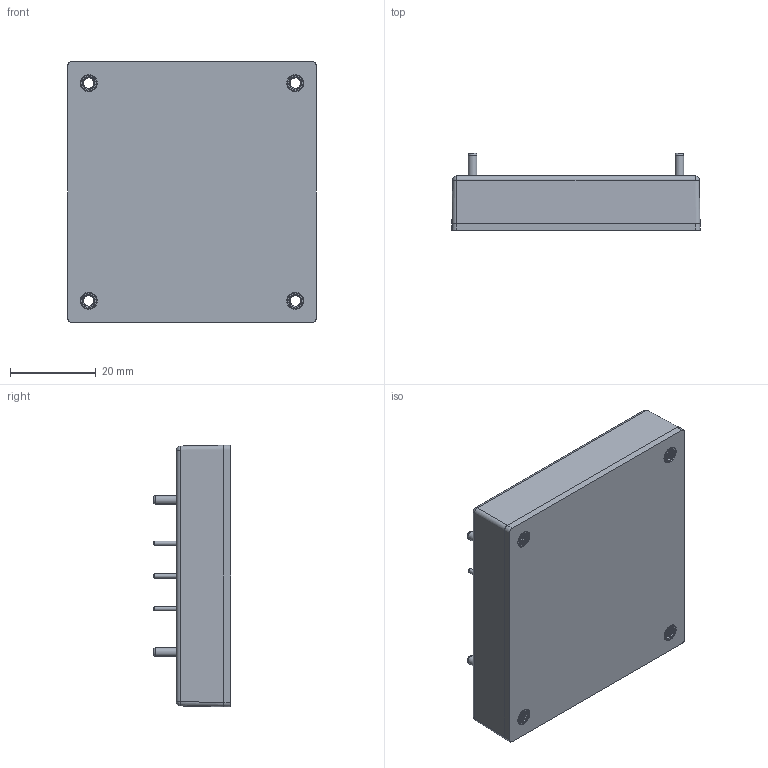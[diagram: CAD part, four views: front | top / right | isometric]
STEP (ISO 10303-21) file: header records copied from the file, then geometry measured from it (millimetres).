
FILE_DESCRIPTION (( 'STEP AP203' ), '1' );
FILE_NAME ('CHB500W¦¨«~¹ÏStandard 2025.05.16.STEP', '2025-05-16T09:26:50', ( '' ), ( '' ), 'SwSTEP 2.0', 'SolidWorks 2020', '' );
FILE_SCHEMA (( 'CONFIG_CONTROL_DESIGN' ));
Length unit declared in the file: millimetre
Products named in the file (1): CHB500W成品圖Standard 2025.05.16
Bounding box: 57.9 x 18 x 61 mm (x, y, z)
Volume: 44018 mm3; surface area: 11819.1 mm2
Topology: 1 solids, 7 shells, 527 faces, 1407 edges, 931 vertices
Faces by surface type: plane 297, cylinder 120, cone 94, bspline 8, sphere 4, torus 4
Full cylindrical faces by diameter (mm): 1 x5, 1.2 x5, 2 x4, 2.2 x4, 4 x4, 4.3 x4, 4.6 x4
Entity records: 25702 total; most frequent: CARTESIAN_POINT 12814, DIRECTION 2651, ORIENTED_EDGE 2644, EDGE_CURVE 1322, AXIS2_PLACEMENT_3D 990, VERTEX_POINT 905, LINE 671, VECTOR 671
